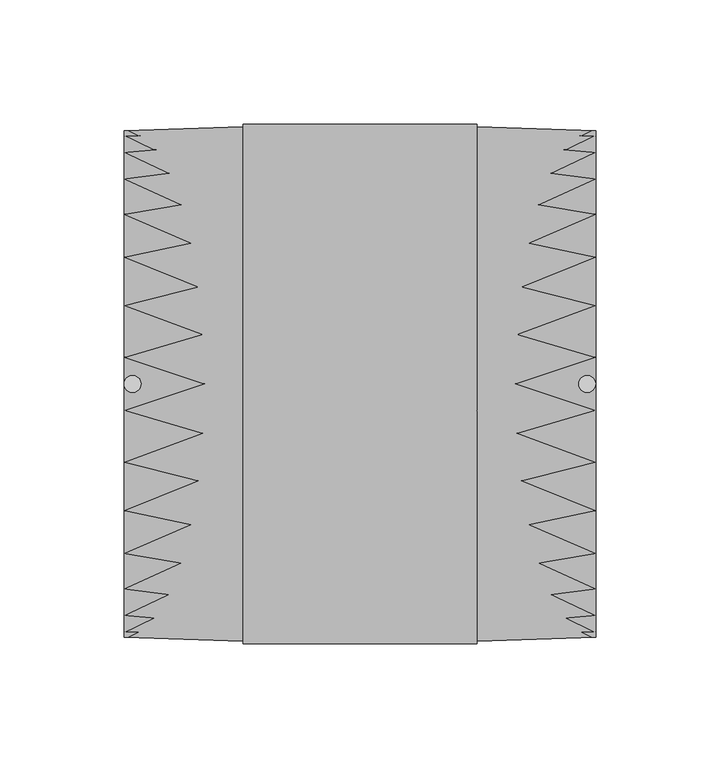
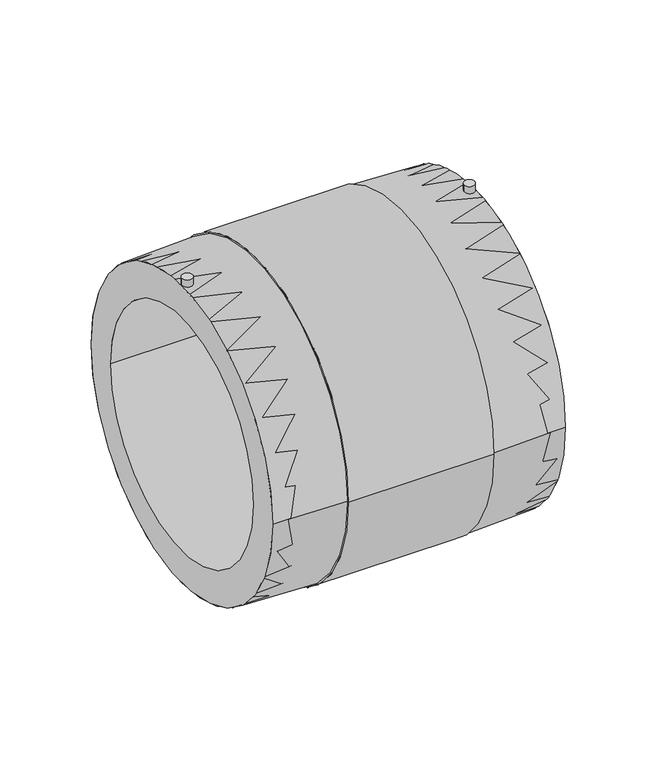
"""IFC4 building model written with IfcOpenShell, lengths in millimetres: pipe fitting geometry, EGB_VASEN_ PPR_Manguito electrosoldable WXRD100 : Manguito electrosoldable WXRD100."""

from ifc_helpers import new_model, si_unit, point, frame, frame_2d, origin, origin_2d, place, context, project, spatial, polyline, circle_curve, trimmed, segment, composite_curve, outline, extrude, source, transform, mapped, element, save
from ifc_brep_helpers import plane_surface, cylinder_surface, revolved_surface, advanced_brep


def pipe_fitting_6f78e862(model_context):
    return source(origin(), model_context, "Body", "SolidModel", [
        extrude(outline(composite_curve([segment(trimmed(circle_curve(origin_2d(), 102.0), [point((-102.0, 0.0))], [point((102.0, 0.0))], False, "CARTESIAN"), True, "CONTINUOUS"), segment(trimmed(circle_curve(origin_2d(), 102.0), [point((102.0, 0.0))], [point((-102.0, 0.0))], False, "CARTESIAN"), True, "CONTINUOUS")], self_intersect=False), holes=[composite_curve([segment(trimmed(circle_curve(origin_2d(), 80.0), [point((-80.0, 0.0))], [point((80.0, 0.0))], True, "CARTESIAN"), True, "CONTINUOUS"), segment(trimmed(circle_curve(origin_2d(), 80.0), [point((80.0, 0.0))], [point((-80.0, 0.0))], True, "CARTESIAN"), True, "CONTINUOUS")], self_intersect=False)]), frame((-95.0, 0.0, 0.0), z_axis=(1.0, 0.0, 0.0), x_axis=(0.0, 1.0, 0.0)), (0.0, 0.0, 1.0), 190.0),
        extrude(outline(composite_curve([segment(trimmed(circle_curve(frame_2d((-91.5878802, 0.0)), 3.4121198), [point((-95.0, 0.0))], [point((-88.1757605, 0.0))], False, "CARTESIAN"), True, "CONTINUOUS"), segment(trimmed(circle_curve(frame_2d((-91.5878802, 0.0)), 3.4121198), [point((-88.1757605, 0.0))], [point((-95.0, 0.0))], False, "CARTESIAN"), True, "CONTINUOUS")], self_intersect=False)), frame((0.0, 0.0, 82.0), z_axis=(0.0, 0.0, 1.0), x_axis=(1.0, 0.0, 0.0)), (0.0, 0.0, 1.0), 25.0),
        extrude(outline(composite_curve([segment(trimmed(circle_curve(frame_2d((91.5878802, 0.0)), 3.4121198), [point((88.1757605, 0.0))], [point((95.0, 0.0))], False, "CARTESIAN"), True, "CONTINUOUS"), segment(trimmed(circle_curve(frame_2d((91.5878802, 0.0)), 3.4121198), [point((95.0, 0.0))], [point((88.1757605, 0.0))], False, "CARTESIAN"), True, "CONTINUOUS")], self_intersect=False)), frame((0.0, 0.0, 82.0), z_axis=(0.0, 0.0, 1.0), x_axis=(1.0, 0.0, 0.0)), (0.0, 0.0, 1.0), 25.0),
        advanced_brep(
        [(47.1, -103.582849, 0.0), (47.1, 103.582849, 0.0), (95.0, 102.0, 0.0), (95.0, -102.0, 0.0), (47.1, -104.582849, 0.0), (47.1, 104.582849, 0.0), (-47.1, -104.582849, 0.0), (-47.1, 104.582849, 0.0), (-47.1, -103.582849, 0.0), (-47.1, 103.582849, 0.0), (-95.0, -102.0, 0.0), (-95.0, 102.0, 0.0)],
        [
            (0, 1, circle_curve(frame((47.1, 0.0, 0.0), z_axis=(1.0, 0.0, 0.0), x_axis=(0.0, 1.0, 0.0)), 103.582849)),
            (1, 2),
            (2, 3, circle_curve(frame((95.0, 0.0, 0.0), z_axis=(-1.0, 0.0, 0.0), x_axis=(0.0, 1.0, 0.0)), 102.0)),
            (3, 0),
            (1, 0, circle_curve(frame((47.1, 0.0, 0.0), z_axis=(1.0, 0.0, 0.0), x_axis=(0.0, 1.0, 0.0)), 103.582849)),
            (3, 2, circle_curve(frame((95.0, 0.0, 0.0), z_axis=(-1.0, 0.0, 0.0), x_axis=(0.0, 1.0, 0.0)), 102.0)),
            (4, 5, circle_curve(frame((47.1, 0.0, 0.0), z_axis=(1.0, 0.0, 0.0), x_axis=(0.0, 1.0, 0.0)), 104.582849)),
            (5, 1),
            (0, 4),
            (5, 4, circle_curve(frame((47.1, 0.0, 0.0), z_axis=(1.0, 0.0, 0.0), x_axis=(0.0, 1.0, 0.0)), 104.582849)),
            (6, 7, circle_curve(frame((-47.1, 0.0, 0.0), z_axis=(1.0, 0.0, 0.0), x_axis=(0.0, 1.0, 0.0)), 104.582849)),
            (7, 5),
            (4, 6),
            (7, 6, circle_curve(frame((-47.1, 0.0, 0.0), z_axis=(1.0, 0.0, 0.0), x_axis=(0.0, 1.0, 0.0)), 104.582849)),
            (8, 9, circle_curve(frame((-47.1, 0.0, 0.0), z_axis=(1.0, 0.0, 0.0), x_axis=(0.0, 1.0, 0.0)), 103.582849)),
            (9, 7),
            (6, 8),
            (9, 8, circle_curve(frame((-47.1, 0.0, 0.0), z_axis=(1.0, 0.0, 0.0), x_axis=(0.0, 1.0, 0.0)), 103.582849)),
            (10, 11, circle_curve(frame((-95.0, 0.0, 0.0), z_axis=(1.0, 0.0, 0.0), x_axis=(0.0, 1.0, 0.0)), 102.0)),
            (11, 9),
            (8, 10),
            (11, 10, circle_curve(frame((-95.0, 0.0, 0.0), z_axis=(1.0, 0.0, 0.0), x_axis=(0.0, 1.0, 0.0)), 102.0)),
            (2, 11),
            (10, 3),
        ],
        [
            revolved_surface(polyline([(95.0, 102.0, 0.0), (47.1, 103.582849, 0.0)]), (-88.7721997, 0.0, 0.0), (-1.0, 0.0, 0.0)),
            plane_surface(frame((47.1, 0.0, 0.0), z_axis=(1.0, 0.0, 0.0), x_axis=(0.0, 1.0, 0.0))),
            cylinder_surface(frame((-88.7721997, 0.0, 0.0), z_axis=(-1.0, 0.0, 0.0), x_axis=(0.0, 1.0, 0.0)), 104.582849),
            plane_surface(frame((-47.1, 0.0, 0.0), z_axis=(-1.0, 0.0, 0.0), x_axis=(0.0, 1.0, 0.0))),
            revolved_surface(polyline([(-47.1, 103.582849, 0.0), (-95.0, 102.0, 0.0)]), (-88.7721997, 0.0, 0.0), (-1.0, 0.0, 0.0)),
            revolved_surface(polyline([(-95.0, 102.0, 0.0), (94.99999999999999, 102.0, 0.0)]), (-88.7721997, 0.0, 0.0), (-1.0, 0.0, 0.0)),
        ],
        [
            (0, [[1, 2, 3, 4]]),
            (0, [[5, -4, 6, -2]]),
            (1, [[7, 8, -1, 9]]),
            (1, [[10, -9, -5, -8]]),
            (2, [[11, 12, -7, 13]]),
            (2, [[14, -13, -10, -12]]),
            (3, [[15, 16, -11, 17]]),
            (3, [[18, -17, -14, -16]]),
            (4, [[19, 20, -15, 21]]),
            (4, [[22, -21, -18, -20]]),
            (5, [[-3, 23, -19, 24]]),
            (5, [[-6, -24, -22, -23]]),
        ],
    ),
    ])


if __name__ == "__main__":
    model = new_model("IFC4")
    model_context = context("Model", 3, world=origin())
    ifc_project = project(units=[si_unit("LENGTHUNIT", "METRE", prefix="MILLI")], contexts=[model_context])
    site = spatial("IfcSite", under=ifc_project)
    building = spatial("IfcBuilding", under=site)
    placement = place(None, origin())
    pipe_fitting_shape = pipe_fitting_6f78e862(model_context)
    element("IfcPipeFitting", 1, ObjectType="EGB_VASEN_ PPR_Manguito electrosoldable WXRD100 : Manguito electrosoldable WXRD100", at=placement, inside=building, context=model_context, shape_type="MappedRepresentation", body=[
        mapped(pipe_fitting_shape, transform((0.0, 0.0, 0.0), x_axis=(1.0, 0.0, 0.0), y_axis=(0.0, 1.0, 0.0), z_axis=(0.0, 0.0, 1.0))),
    ])
    save(model, "model.ifc")
